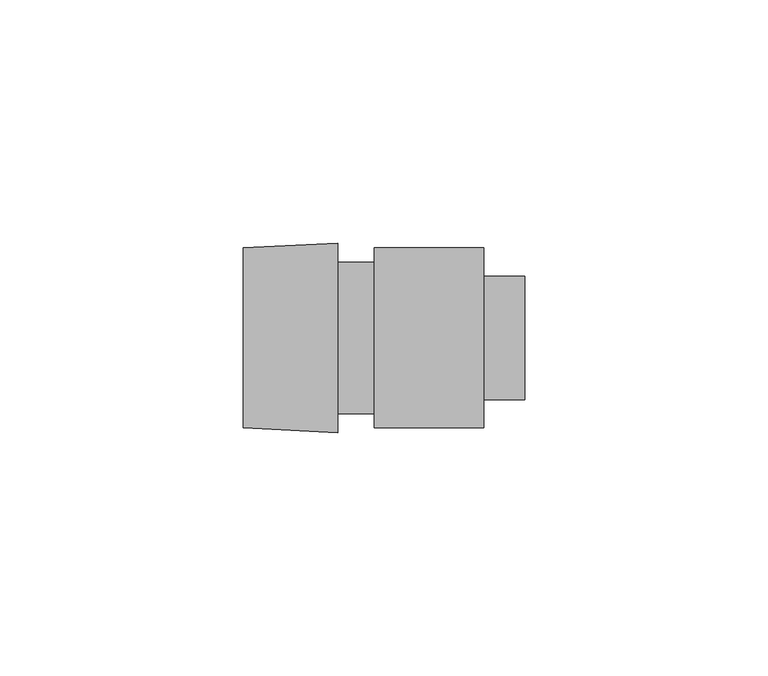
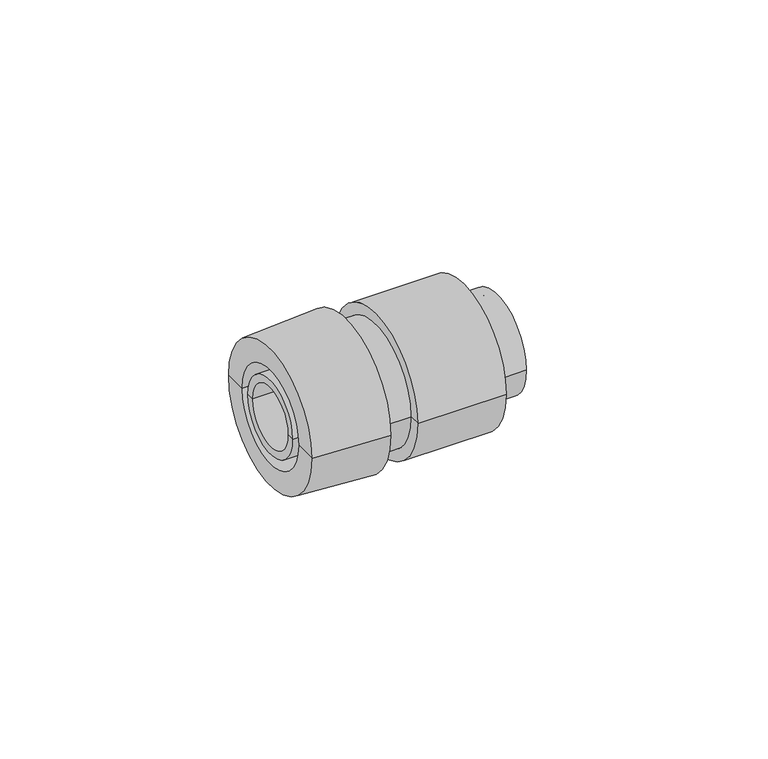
"""IFC4 building model written with IfcOpenShell, lengths in millimetres: cable carrier fitting geometry, КНС_ПереходникАрмированнаяТрубаКоробка_IP65_DKC : Коробка."""

from ifc_helpers import new_model, si_unit, frame, origin, place, context, project, spatial, polyline, circle_curve, source, transform, mapped, element, save
from ifc_brep_helpers import plane_surface, cylinder_surface, revolved_surface, advanced_brep


def cable_carrier_fitting_314b5b7c(model_context):
    return source(origin(), model_context, "Body", "AdvancedBrep", [
        advanced_brep(
        [(38.5, -10.6353846, 0.0), (38.5, 10.6353846, 0.0), (0.0, 10.6353846, 0.0), (0.0, -10.6353846, 0.0), (38.5, -12.7, 0.0), (38.5, 12.7, 0.0), (30.0, -12.7, 0.0), (30.0, 12.7, 0.0), (30.0, -18.5, 0.0), (30.0, 18.5, 0.0), (7.5, -18.5, 0.0), (7.5, 18.5, 0.0), (7.5, -15.6, 0.0), (7.5, 15.6, 0.0), (0.0, -15.6, 0.0), (0.0, 15.6, 0.0)],
        [
            (0, 1, circle_curve(frame((38.5, 0.0, 0.0), z_axis=(1.0, 0.0, 0.0), x_axis=(0.0, 1.0, 0.0)), 10.6353846)),
            (1, 2),
            (2, 3, circle_curve(frame((0.0, 0.0, 0.0), z_axis=(-1.0, 0.0, 0.0), x_axis=(0.0, 1.0, 0.0)), 10.6353846)),
            (3, 0),
            (1, 0, circle_curve(frame((38.5, 0.0, 0.0), z_axis=(1.0, 0.0, 0.0), x_axis=(0.0, 1.0, 0.0)), 10.6353846)),
            (3, 2, circle_curve(frame((0.0, 0.0, 0.0), z_axis=(-1.0, 0.0, 0.0), x_axis=(0.0, 1.0, 0.0)), 10.6353846)),
            (4, 5, circle_curve(frame((38.5, 0.0, 0.0), z_axis=(1.0, 0.0, 0.0), x_axis=(0.0, 1.0, 0.0)), 12.7)),
            (5, 1),
            (0, 4),
            (5, 4, circle_curve(frame((38.5, 0.0, 0.0), z_axis=(1.0, 0.0, 0.0), x_axis=(0.0, 1.0, 0.0)), 12.7)),
            (6, 7, circle_curve(frame((30.0, 0.0, 0.0), z_axis=(1.0, 0.0, 0.0), x_axis=(0.0, 1.0, 0.0)), 12.7)),
            (7, 5),
            (4, 6),
            (7, 6, circle_curve(frame((30.0, 0.0, 0.0), z_axis=(1.0, 0.0, 0.0), x_axis=(0.0, 1.0, 0.0)), 12.7)),
            (8, 9, circle_curve(frame((30.0, 0.0, 0.0), z_axis=(1.0, 0.0, 0.0), x_axis=(0.0, 1.0, 0.0)), 18.5)),
            (9, 7),
            (6, 8),
            (9, 8, circle_curve(frame((30.0, 0.0, 0.0), z_axis=(1.0, 0.0, 0.0), x_axis=(0.0, 1.0, 0.0)), 18.5)),
            (10, 11, circle_curve(frame((7.5, 0.0, 0.0), z_axis=(1.0, 0.0, 0.0), x_axis=(0.0, 1.0, 0.0)), 18.5)),
            (11, 9),
            (8, 10),
            (11, 10, circle_curve(frame((7.5, 0.0, 0.0), z_axis=(1.0, 0.0, 0.0), x_axis=(0.0, 1.0, 0.0)), 18.5)),
            (12, 13, circle_curve(frame((7.5, 0.0, 0.0), z_axis=(1.0, 0.0, 0.0), x_axis=(0.0, 1.0, 0.0)), 15.6)),
            (13, 11),
            (10, 12),
            (13, 12, circle_curve(frame((7.5, 0.0, 0.0), z_axis=(1.0, 0.0, 0.0), x_axis=(0.0, 1.0, 0.0)), 15.6)),
            (14, 15, circle_curve(frame((0.0, 0.0, 0.0), z_axis=(1.0, 0.0, 0.0), x_axis=(0.0, 1.0, 0.0)), 15.6)),
            (15, 13),
            (12, 14),
            (15, 14, circle_curve(frame((0.0, 0.0, 0.0), z_axis=(1.0, 0.0, 0.0), x_axis=(0.0, 1.0, 0.0)), 15.6)),
            (2, 15),
            (14, 3),
        ],
        [
            revolved_surface(polyline([(0.0, 10.6353846, 0.0), (38.5, 10.6353846, 0.0)]), (1527.0, 0.0, 0.0), (-1.0, 0.0, 0.0)),
            plane_surface(frame((38.5, 0.0, 0.0), z_axis=(1.0, 0.0, 0.0), x_axis=(0.0, 1.0, 0.0))),
            cylinder_surface(frame((1527.0, 0.0, 0.0), z_axis=(-1.0, 0.0, 0.0), x_axis=(0.0, 1.0, 0.0)), 12.7),
            plane_surface(frame((30.0, 0.0, 0.0), z_axis=(1.0, 0.0, 0.0), x_axis=(0.0, 1.0, 0.0))),
            cylinder_surface(frame((1527.0, 0.0, 0.0), z_axis=(-1.0, 0.0, 0.0), x_axis=(0.0, 1.0, 0.0)), 18.5),
            plane_surface(frame((7.5, 0.0, 0.0), z_axis=(-1.0, 0.0, 0.0), x_axis=(0.0, 1.0, 0.0))),
            cylinder_surface(frame((1527.0, 0.0, 0.0), z_axis=(-1.0, 0.0, 0.0), x_axis=(0.0, 1.0, 0.0)), 15.6),
            plane_surface(frame((0.0, 0.0, 0.0), z_axis=(-1.0, 0.0, 0.0), x_axis=(0.0, 1.0, 0.0))),
        ],
        [
            (0, [[1, 2, 3, 4]]),
            (0, [[5, -4, 6, -2]]),
            (1, [[7, 8, -1, 9]]),
            (1, [[10, -9, -5, -8]]),
            (2, [[11, 12, -7, 13]]),
            (2, [[14, -13, -10, -12]]),
            (3, [[15, 16, -11, 17]]),
            (3, [[18, -17, -14, -16]]),
            (4, [[19, 20, -15, 21]]),
            (4, [[22, -21, -18, -20]]),
            (5, [[23, 24, -19, 25]]),
            (5, [[26, -25, -22, -24]]),
            (6, [[27, 28, -23, 29]]),
            (6, [[30, -29, -26, -28]]),
            (7, [[-3, 31, -27, 32]]),
            (7, [[-6, -32, -30, -31]]),
        ],
    ),
        advanced_brep(
        [(0.0, -19.5, 0.0), (0.0, 19.5, 0.0), (0.0, 12.7, 0.0), (0.0, -12.7, 0.0), (-19.5, -18.5, 0.0), (-19.5, 18.5, 0.0), (-19.5, -12.7, 0.0), (-19.5, 12.7, 0.0)],
        [
            (0, 1, circle_curve(frame((0.0, 0.0, 0.0), z_axis=(1.0, 0.0, 0.0), x_axis=(0.0, 1.0, 0.0)), 19.5)),
            (1, 2),
            (2, 3, circle_curve(frame((0.0, 0.0, 0.0), z_axis=(-1.0, 0.0, 0.0), x_axis=(0.0, 1.0, 0.0)), 12.7)),
            (3, 0),
            (1, 0, circle_curve(frame((0.0, 0.0, 0.0), z_axis=(1.0, 0.0, 0.0), x_axis=(0.0, 1.0, 0.0)), 19.5)),
            (3, 2, circle_curve(frame((0.0, 0.0, 0.0), z_axis=(-1.0, 0.0, 0.0), x_axis=(0.0, 1.0, 0.0)), 12.7)),
            (4, 5, circle_curve(frame((-19.5, 0.0, 0.0), z_axis=(1.0, 0.0, 0.0), x_axis=(0.0, 1.0, 0.0)), 18.5)),
            (5, 1),
            (0, 4),
            (5, 4, circle_curve(frame((-19.5, 0.0, 0.0), z_axis=(1.0, 0.0, 0.0), x_axis=(0.0, 1.0, 0.0)), 18.5)),
            (6, 7, circle_curve(frame((-19.5, 0.0, 0.0), z_axis=(1.0, 0.0, 0.0), x_axis=(0.0, 1.0, 0.0)), 12.7)),
            (7, 5),
            (4, 6),
            (7, 6, circle_curve(frame((-19.5, 0.0, 0.0), z_axis=(1.0, 0.0, 0.0), x_axis=(0.0, 1.0, 0.0)), 12.7)),
            (2, 7),
            (6, 3),
        ],
        [
            plane_surface(frame((0.0, 0.0, 0.0), z_axis=(1.0, 0.0, 0.0), x_axis=(0.0, 1.0, 0.0))),
            revolved_surface(polyline([(0.0, 19.5, 0.0), (-19.5, 18.5, 0.0)]), (1527.0, 0.0, 0.0), (-1.0, 0.0, 0.0)),
            plane_surface(frame((-19.5, 0.0, 0.0), z_axis=(-1.0, 0.0, 0.0), x_axis=(0.0, 1.0, 0.0))),
            revolved_surface(polyline([(-19.5, 12.7, 0.0), (0.0, 12.7, 0.0)]), (1527.0, 0.0, 0.0), (-1.0, 0.0, 0.0)),
        ],
        [
            (0, [[1, 2, 3, 4]]),
            (0, [[5, -4, 6, -2]]),
            (1, [[7, 8, -1, 9]]),
            (1, [[10, -9, -5, -8]]),
            (2, [[11, 12, -7, 13]]),
            (2, [[14, -13, -10, -12]]),
            (3, [[-3, 15, -11, 16]]),
            (3, [[-6, -16, -14, -15]]),
        ],
    ),
        advanced_brep(
        [(-19.5, -10.0, 0.0), (-19.5, 10.0, 0.0), (0.0, 10.0, 0.0), (0.0, -10.0, 0.0), (-19.5, -8.0, 0.0), (-19.5, 8.0, 0.0), (0.0, -8.0, 0.0), (0.0, 8.0, 0.0)],
        [
            (0, 1, circle_curve(frame((-19.5, 0.0, 0.0), z_axis=(1.0, 0.0, 0.0), x_axis=(0.0, 1.0, 0.0)), 10.0)),
            (1, 2),
            (2, 3, circle_curve(frame((0.0, 0.0, 0.0), z_axis=(-1.0, 0.0, 0.0), x_axis=(0.0, 1.0, 0.0)), 10.0)),
            (3, 0),
            (1, 0, circle_curve(frame((-19.5, 0.0, 0.0), z_axis=(1.0, 0.0, 0.0), x_axis=(0.0, 1.0, 0.0)), 10.0)),
            (3, 2, circle_curve(frame((0.0, 0.0, 0.0), z_axis=(-1.0, 0.0, 0.0), x_axis=(0.0, 1.0, 0.0)), 10.0)),
            (4, 5, circle_curve(frame((-19.5, 0.0, 0.0), z_axis=(1.0, 0.0, 0.0), x_axis=(0.0, 1.0, 0.0)), 8.0)),
            (5, 1),
            (0, 4),
            (5, 4, circle_curve(frame((-19.5, 0.0, 0.0), z_axis=(1.0, 0.0, 0.0), x_axis=(0.0, 1.0, 0.0)), 8.0)),
            (6, 7, circle_curve(frame((0.0, 0.0, 0.0), z_axis=(1.0, 0.0, 0.0), x_axis=(0.0, 1.0, 0.0)), 8.0)),
            (7, 5),
            (4, 6),
            (7, 6, circle_curve(frame((0.0, 0.0, 0.0), z_axis=(1.0, 0.0, 0.0), x_axis=(0.0, 1.0, 0.0)), 8.0)),
            (2, 7),
            (6, 3),
        ],
        [
            cylinder_surface(frame((1527.0, 0.0, 0.0), z_axis=(-1.0, 0.0, 0.0), x_axis=(0.0, 1.0, 0.0)), 10.0),
            plane_surface(frame((-19.5, 0.0, 0.0), z_axis=(-1.0, 0.0, 0.0), x_axis=(0.0, 1.0, 0.0))),
            revolved_surface(polyline([(-19.5, 8.0, 0.0), (0.0, 8.0, 0.0)]), (1527.0, 0.0, 0.0), (-1.0, 0.0, 0.0)),
            plane_surface(frame((0.0, 0.0, 0.0), z_axis=(1.0, 0.0, 0.0), x_axis=(0.0, 1.0, 0.0))),
        ],
        [
            (0, [[1, 2, 3, 4]]),
            (0, [[5, -4, 6, -2]]),
            (1, [[7, 8, -1, 9]]),
            (1, [[10, -9, -5, -8]]),
            (2, [[11, 12, -7, 13]]),
            (2, [[14, -13, -10, -12]]),
            (3, [[-3, 15, -11, 16]]),
            (3, [[-6, -16, -14, -15]]),
        ],
    ),
    ])


if __name__ == "__main__":
    model = new_model("IFC4")
    model_context = context("Model", 3, world=origin())
    ifc_project = project(units=[si_unit("LENGTHUNIT", "METRE", prefix="MILLI")], contexts=[model_context])
    site = spatial("IfcSite", under=ifc_project)
    building = spatial("IfcBuilding", under=site)
    placement = place(None, origin())
    cable_carrier_fitting_shape = cable_carrier_fitting_314b5b7c(model_context)
    element("IfcCableCarrierFitting", 1, ObjectType="КНС_ПереходникАрмированнаяТрубаКоробка_IP65_DKC : Коробка", at=placement, inside=building, context=model_context, shape_type="MappedRepresentation", body=[
        mapped(cable_carrier_fitting_shape, transform((0.0, 0.0, 0.0), x_axis=(1.0, 0.0, 0.0), y_axis=(0.0, 1.0, 0.0), z_axis=(0.0, 0.0, 1.0))),
    ])
    save(model, "model.ifc")
